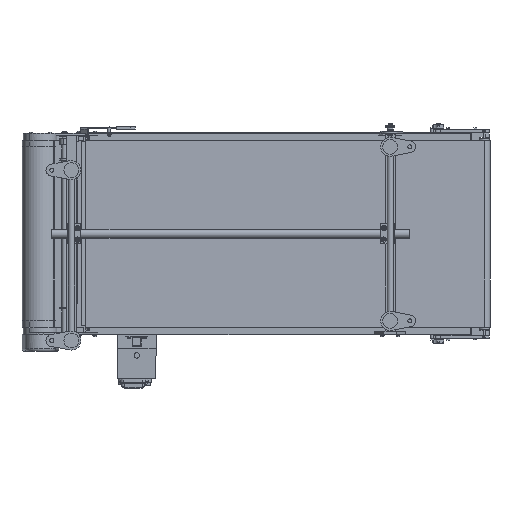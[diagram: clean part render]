
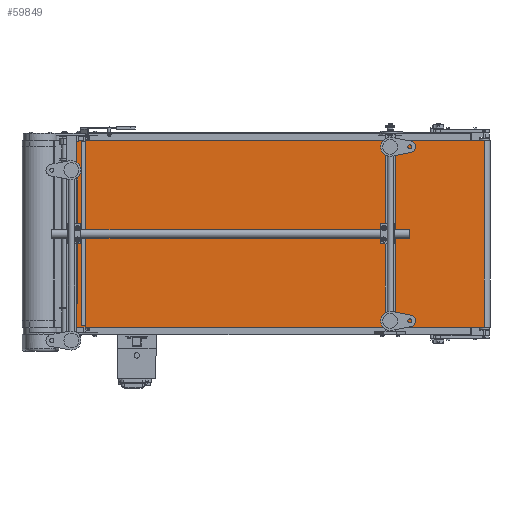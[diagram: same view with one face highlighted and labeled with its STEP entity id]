
A CAD part, front view. The second image highlights one B-rep face of the part: STEP entity #59849.
In plain terms, the highlighted planar face has unit normal (0.009, -1, 0).
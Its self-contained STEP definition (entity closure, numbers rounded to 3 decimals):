
#3794 = CARTESIAN_POINT ( 'NONE',  ( 150.47, -44.938, -300. ) ) ;
#6362 = EDGE_CURVE ( 'NONE', #66108, #32023, #55842, .T. ) ;
#9039 = DIRECTION ( 'NONE',  ( 1., 0.009, 0. ) ) ;
#12713 = AXIS2_PLACEMENT_3D ( 'NONE', #49610, #38438, #43744 ) ;
#15168 = CARTESIAN_POINT ( 'NONE',  ( 1483.164, -32.999, 300. ) ) ;
#15555 = EDGE_LOOP ( 'NONE', ( #42047, #31469, #20397, #67868 ) ) ;
#20397 = ORIENTED_EDGE ( 'NONE', *, *, #65619, .F. ) ;
#22870 = LINE ( 'NONE', #15168, #31432 ) ;
#24044 = PLANE ( 'NONE',  #12713 ) ;
#26199 = DIRECTION ( 'NONE',  ( 0., 0., -1. ) ) ;
#26891 = VERTEX_POINT ( 'NONE', #44939 ) ;
#27178 = LINE ( 'NONE', #62485, #71978 ) ;
#28728 = CARTESIAN_POINT ( 'NONE',  ( 1483.164, -32.999, -300. ) ) ;
#28802 = CARTESIAN_POINT ( 'NONE',  ( 1483.164, -32.999, 300. ) ) ;
#31432 = VECTOR ( 'NONE', #9039, 1000. ) ;
#31469 = ORIENTED_EDGE ( 'NONE', *, *, #6362, .F. ) ;
#32023 = VERTEX_POINT ( 'NONE', #67889 ) ;
#33127 = EDGE_CURVE ( 'NONE', #47479, #32023, #56651, .T. ) ;
#35777 = VECTOR ( 'NONE', #71405, 1000. ) ;
#38438 = DIRECTION ( 'NONE',  ( -0.009, 1., 0. ) ) ;
#42047 = ORIENTED_EDGE ( 'NONE', *, *, #33127, .T. ) ;
#43744 = DIRECTION ( 'NONE',  ( -1., -0.009, 0. ) ) ;
#44939 = CARTESIAN_POINT ( 'NONE',  ( 150.47, -44.938, 300. ) ) ;
#47083 = VECTOR ( 'NONE', #71586, 1000. ) ;
#47479 = VERTEX_POINT ( 'NONE', #3794 ) ;
#49610 = CARTESIAN_POINT ( 'NONE',  ( 1483.164, -32.999, 300. ) ) ;
#55842 = LINE ( 'NONE', #28802, #35777 ) ;
#56062 = EDGE_CURVE ( 'NONE', #26891, #47479, #27178, .T. ) ;
#56651 = LINE ( 'NONE', #28728, #47083 ) ;
#59849 = ADVANCED_FACE ( 'NONE', ( #72059 ), #24044, .F. ) ;
#62485 = CARTESIAN_POINT ( 'NONE',  ( 150.47, -44.938, 300. ) ) ;
#65619 = EDGE_CURVE ( 'NONE', #26891, #66108, #22870, .T. ) ;
#66108 = VERTEX_POINT ( 'NONE', #74246 ) ;
#67868 = ORIENTED_EDGE ( 'NONE', *, *, #56062, .T. ) ;
#67889 = CARTESIAN_POINT ( 'NONE',  ( 1483.164, -32.999, -300. ) ) ;
#71405 = DIRECTION ( 'NONE',  ( 0., 0., -1. ) ) ;
#71586 = DIRECTION ( 'NONE',  ( 1., 0.009, 0. ) ) ;
#71978 = VECTOR ( 'NONE', #26199, 1000. ) ;
#72059 = FACE_OUTER_BOUND ( 'NONE', #15555, .T. ) ;
#74246 = CARTESIAN_POINT ( 'NONE',  ( 1483.164, -32.999, 300. ) ) ;
